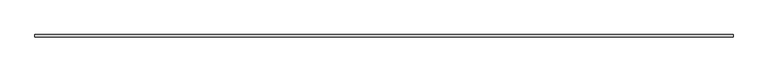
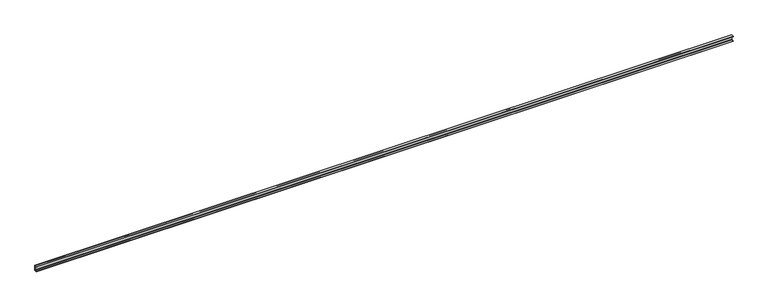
"""IFC4 building model written with IfcOpenShell, lengths in millimetres: beam geometry,  63593 :  63593."""

from ifc_helpers import new_model, si_unit, frame, origin, place, context, project, spatial, polyline, outline, extrude, source, transform, mapped, element, save


def beam_6628c262(model_context):
    return source(origin(), model_context, "Body", "SweptSolid", [
        extrude(outline(polyline([(-34466.5, 8110.0), (-34466.5, 7990.0), (-34521.5, 7990.0), (-34521.5, 7996.8), (-34482.5, 7999.92), (-34473.5, 8009.64), (-34473.5, 8090.36), (-34482.5, 8100.08), (-34521.5, 8103.2), (-34521.5, 8110.0), (-34466.5, 8110.0)])), frame((-180.0000001, 0.0, 0.0), z_axis=(1.0, 0.0, 0.0), x_axis=(0.0, 1.0, 0.0)), (0.0, 0.0, 1.0), 15570.0),
    ])


if __name__ == "__main__":
    model = new_model("IFC4")
    model_context = context("Model", 3, world=origin())
    ifc_project = project(units=[si_unit("LENGTHUNIT", "METRE", prefix="MILLI")], contexts=[model_context])
    site = spatial("IfcSite", under=ifc_project)
    building = spatial("IfcBuilding", under=site)
    placement = place(None, origin())
    beam_shape = beam_6628c262(model_context)
    element("IfcBeam", 1, ObjectType=" 63593 :  63593", at=placement, inside=building, context=model_context, shape_type="MappedRepresentation", body=[
        mapped(beam_shape, transform((0.0, 0.0, 0.0), x_axis=(1.0, 0.0, 0.0), y_axis=(0.0, 1.0, 0.0), z_axis=(0.0, 0.0, 1.0))),
    ])
    save(model, "model.ifc")
